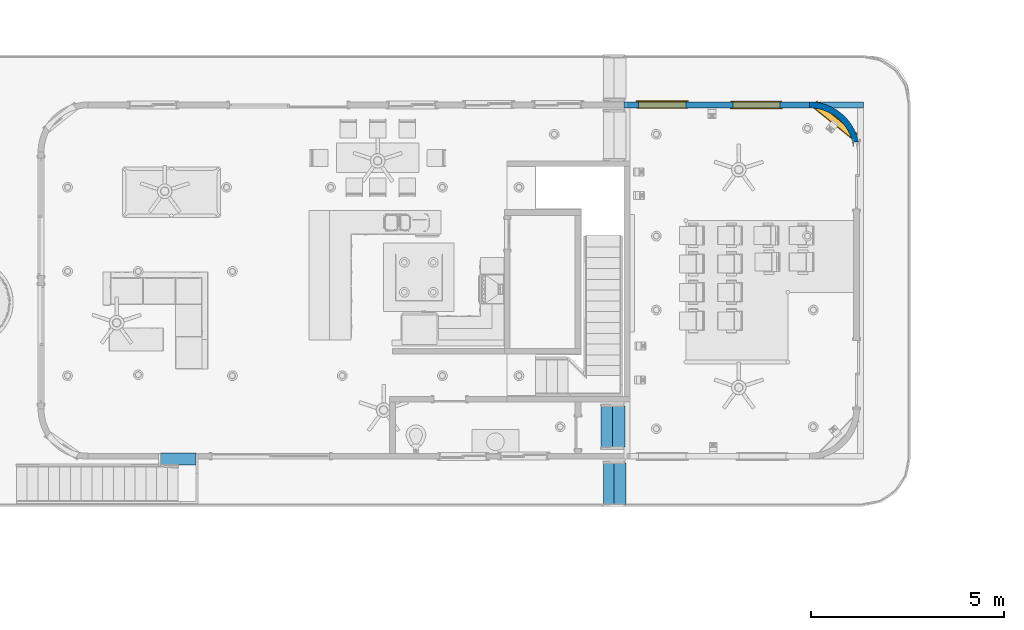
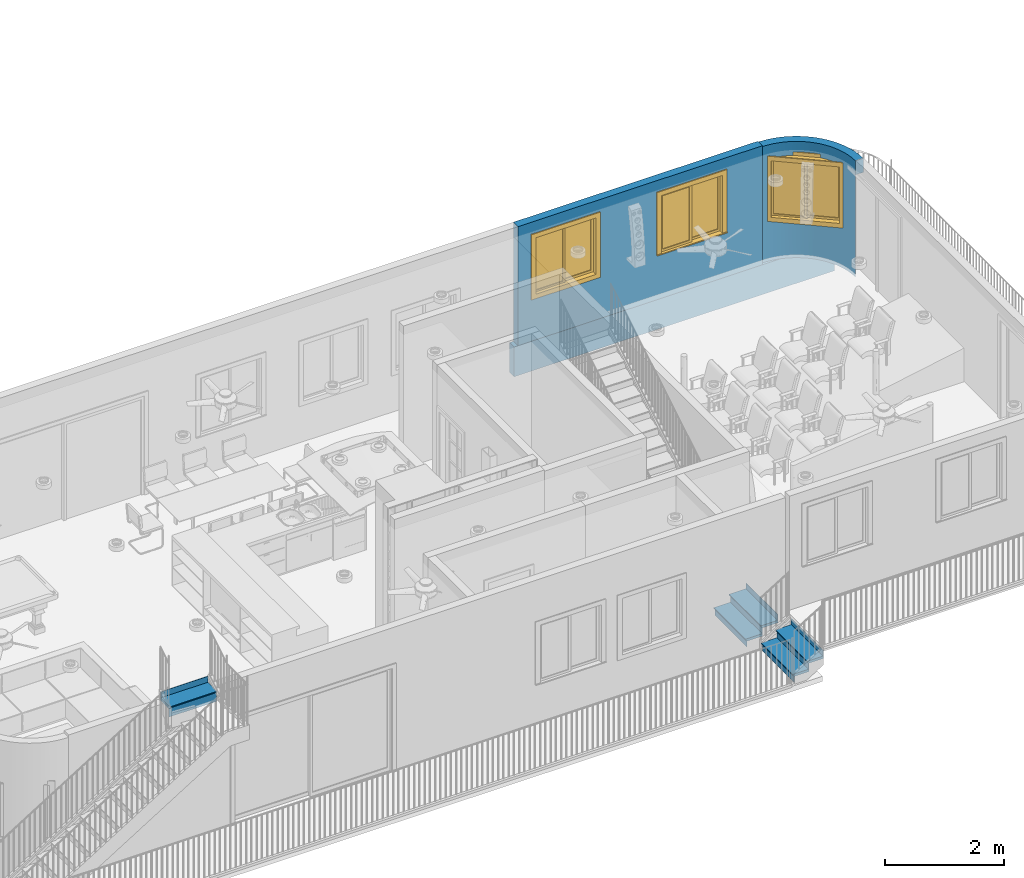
# One storey, part 5 of 21: 3 stair flights, 3 walls, 3 windows, 4 openings, 3 elements without a shape of their own.
"""IFC2X3 building model written with IfcOpenShell, lengths in feet."""

from ifc_helpers import new_model, entity, si_unit, converted_unit, derived_unit, direction, frame, frame_2d, origin, origin_2d_with_axis, place, context, subcontext, project, spatial, polyline, circle_curve, parameter, trimmed, segment, composite_curve, rectangle, outline, extrude, source, transform, mapped, material, material_list, layer, layer_set, layer_usage, type_object, type_shapes, element, fill, aggregate, save


model = new_model("IFC2X3")

# Units and contexts
model_context = context("Model", 3, precision=0.0001, world=origin(), true_north=direction((6.12303176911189e-17, 1.0)))
body_context = subcontext(model_context, "Body", "Model", "MODEL_VIEW")
ifc_project = project(units=[converted_unit("LENGTHUNIT", "FOOT", entity("IfcRatioMeasure", 0.3048), si_unit("LENGTHUNIT", "METRE"), dimensions=[1, 0, 0, 0, 0, 0, 0]), converted_unit("AREAUNIT", "SQUARE FOOT", entity("IfcRatioMeasure", 0.09290304), si_unit("AREAUNIT", "SQUARE_METRE"), dimensions=[2, 0, 0, 0, 0, 0, 0]), converted_unit("VOLUMEUNIT", "CUBIC FOOT", entity("IfcRatioMeasure", 0.028316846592), si_unit("VOLUMEUNIT", "CUBIC_METRE"), dimensions=[3, 0, 0, 0, 0, 0, 0]), converted_unit("PLANEANGLEUNIT", "DEGREE", entity("IfcRatioMeasure", 0.0174532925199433), si_unit("PLANEANGLEUNIT", "RADIAN"), dimensions=[0, 0, 0, 0, 0, 0, 0]), si_unit("MASSUNIT", "GRAM", prefix="KILO"), derived_unit("MASSDENSITYUNIT", [(si_unit("MASSUNIT", "GRAM", prefix="KILO"), 1), (si_unit("LENGTHUNIT", "METRE"), -3)]), si_unit("TIMEUNIT", "SECOND"), si_unit("FREQUENCYUNIT", "HERTZ"), si_unit("THERMODYNAMICTEMPERATUREUNIT", "DEGREE_CELSIUS"), derived_unit("THERMALTRANSMITTANCEUNIT", [(si_unit("MASSUNIT", "GRAM", prefix="KILO"), 1), (si_unit("THERMODYNAMICTEMPERATUREUNIT", "KELVIN"), -1), (si_unit("TIMEUNIT", "SECOND"), -3)]), derived_unit("VOLUMETRICFLOWRATEUNIT", [(si_unit("LENGTHUNIT", "METRE"), 3), (si_unit("TIMEUNIT", "SECOND"), -1)]), si_unit("ELECTRICCURRENTUNIT", "AMPERE"), si_unit("ELECTRICVOLTAGEUNIT", "VOLT"), si_unit("POWERUNIT", "WATT"), si_unit("FORCEUNIT", "NEWTON"), si_unit("ILLUMINANCEUNIT", "LUX"), si_unit("LUMINOUSFLUXUNIT", "LUMEN"), si_unit("LUMINOUSINTENSITYUNIT", "CANDELA"), derived_unit("USERDEFINED", [(si_unit("MASSUNIT", "GRAM", prefix="KILO"), -1), (si_unit("LENGTHUNIT", "METRE"), -2), (si_unit("TIMEUNIT", "SECOND"), 3), (si_unit("LUMINOUSFLUXUNIT", "LUMEN"), 1)]), derived_unit("LINEARVELOCITYUNIT", [(si_unit("LENGTHUNIT", "METRE"), 1), (si_unit("TIMEUNIT", "SECOND"), -1)]), si_unit("PRESSUREUNIT", "PASCAL"), derived_unit("USERDEFINED", [(si_unit("LENGTHUNIT", "METRE"), -2), (si_unit("MASSUNIT", "GRAM", prefix="KILO"), 1), (si_unit("TIMEUNIT", "SECOND"), -2)])], contexts=[model_context])

# Site, building, storey
site_placement = place(None, origin())
site = spatial("IfcSite", under=ifc_project, at=site_placement, Name="表面", CompositionType="ELEMENT")
building_placement = place(site_placement, origin())
building = spatial("IfcBuilding", under=site, at=building_placement, CompositionType="ELEMENT")
storey_placement = place(building_placement, origin())
storey = spatial("IfcBuildingStorey", under=building, at=storey_placement, Name="Level 1", CompositionType="ELEMENT", Elevation=0.0)

# Wall
ifc_material_1 = material(Name="Paint")
ifc_layer_1 = layer(ifc_material_1, 0.333333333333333)
ifc_material_2 = material(Name="Paints and Coatings")
ifc_layer_2 = layer(ifc_material_2, 0.166666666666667)
ifc_layer_set = layer_set([ifc_layer_1, ifc_layer_2], Name="基本墙:Generic - 4\" Brick")
ifc_layer_usage_1 = layer_usage(ifc_layer_set, "AXIS2", "NEGATIVE", 0.25)
wall_type = type_object("IfcWallType", Name="基本墙:Generic - 4\" Brick", PredefinedType="STANDARD", material=ifc_layer_set)
wall_1_placement = place(storey_placement, frame((36.0484202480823, 16.6823936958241, 0.0), z_axis=(0.0, 0.0, 1.0), x_axis=(-1.0, 0.0, 0.0)))
element("IfcWallStandardCase", 1, at=wall_1_placement, inside=storey, type_object=wall_type, material=ifc_layer_usage_1, Name="基本墙:Generic - 4\" Brick", ObjectType="基本墙:Generic - 4\" Brick:257", context=body_context, shape_type="SweptSolid", body=[
    extrude(rectangle(XDim=20.3333333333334, YDim=0.5, at=frame_2d((10.1666666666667, 8.04911692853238e-16), x_axis=(-1.0, 0.0))), origin(), (0.0, 0.0, 1.0), 2.0),
])

# Wall, openings, window
ifc_layer_usage_2 = layer_usage(ifc_layer_set, "AXIS2", "POSITIVE", -0.25)
wall_2_placement = place(storey_placement, frame((31.4650869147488, 16.6823936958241, 2.12897813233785)))
wall_2 = element("IfcWallStandardCase", 2, at=wall_2_placement, inside=storey, type_object=wall_type, material=ifc_layer_usage_2, Name="基本墙:Generic - 4\" Brick", ObjectType="基本墙:Generic - 4\" Brick:257", context=body_context, shape_type="SweptSolid", body=[
    extrude(outline(composite_curve([segment(trimmed(circle_curve(frame_2d((0.0, -4.0), x_axis=(1.0, 0.0)), 4.25), [parameter(359.999999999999)], [parameter(90.0000000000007)], True, "PARAMETER"), True, "CONTINUOUS"), segment(polyline([(0.0, 0.25), (0.0, -0.25)]), True, "CONTINUOUS"), segment(trimmed(circle_curve(frame_2d((0.0, -4.0), x_axis=(1.0, 0.0)), 3.75), [parameter(359.999999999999)], [parameter(90.0000000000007)], True, "PARAMETER"), False, "CONTINUOUS"), segment(polyline([(3.75000000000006, -4.0), (4.25000000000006, -4.0)]), True, "CONTINUOUS")], self_intersect=False)), origin(), (0.0, 0.0, 1.0), 7.80171528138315),
])
opening_1_placement = place(wall_2_placement, origin())
element("IfcOpeningElement", 3, at=opening_1_placement, cuts=wall_2, Name="基本墙:Generic - 4\" Brick", ObjectType="Opening", context=body_context, shape_type="SweptSolid", body=[
    extrude(rectangle(XDim=0.5, YDim=5.66666666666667, at=frame_2d((0.0, 4.44089209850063e-16), x_axis=(1.0, 0.0))), frame((4.0, -6.0, -0.128978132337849)), (0.0, 0.0, 1.0), 6.99999999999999),
])
opening_2_placement = place(wall_2_placement, frame((-2.07665666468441, -3.38939246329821, 2.87102186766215)))
opening_2 = element("IfcOpeningElement", 4, at=opening_2_placement, cuts=wall_2, Name="Slider with Trim:48\" x 48\":1", ObjectType="Opening", context=body_context, shape_type="SweptSolid", body=[
    extrude(rectangle(XDim=3.99999999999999, YDim=3.99999999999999, at=frame_2d((2.0, 2.0), x_axis=(-1.0, 0.0))), frame((0.0, 0.0, 0.0), z_axis=(0.627571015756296, 0.778559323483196, 0.0), x_axis=(0.0, 0.0, 1.0)), (0.0, 0.0, 1.0), 4.62701638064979),
])
ifc_material_3 = material(Name="Glass")
ifc_material_4 = material(Name="Sash")
ifc_material_5 = material(Name="Trim")
ifc_material_list_1 = material_list([ifc_material_3, ifc_material_4, ifc_material_5])
ifc_material_list_2 = material_list([ifc_material_3, ifc_material_4, ifc_material_5])
window_style = type_object("IfcWindowStyle", Name="48\" x 48\"", ConstructionType="NOTDEFINED", OperationType="NOTDEFINED", ParameterTakesPrecedence=False, Sizeable=False, material=ifc_material_list_2)
shared_shape = source(origin(), body_context, "Body", "SweptSolid", [
    extrude(rectangle(XDim=0.0416666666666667, YDim=1.71875000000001, at=origin_2d_with_axis()), frame((1.06770833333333, 0.21875, 0.208333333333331), z_axis=(0.0, 0.0, 1.0), x_axis=(0.0, -1.0, 0.0)), (0.0, 0.0, 1.0), 3.58333333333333),
    extrude(outline(polyline([(-1.00520833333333, -1.9375), (1.00520833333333, -1.9375), (1.00520833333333, 1.9375), (-1.00520833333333, 1.9375), (-1.00520833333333, -1.9375)]), holes=[polyline([(-0.859374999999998, -1.79166666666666), (-0.859374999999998, 1.79166666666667), (0.859374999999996, 1.79166666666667), (0.859374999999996, -1.79166666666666), (-0.859374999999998, -1.79166666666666)])]), frame((1.06770833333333, 0.145833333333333, 2.0), z_axis=(0.0, 1.0, 0.0), x_axis=(1.0, 0.0, 0.0)), (0.0, 0.0, 1.0), 0.145833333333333),
    extrude(rectangle(XDim=0.104166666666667, YDim=4.45833333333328, at=frame_2d((-2.77555756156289e-17, 0.0), x_axis=(1.0, 0.0))), frame((2.0, 0.552083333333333, 0.0), z_axis=(0.0, 0.0, 1.0), x_axis=(0.0, -1.0, 0.0)), (0.0, 0.0, 1.0), 0.0624999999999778),
    extrude(outline(polyline([(-1.86458333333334, 1.9375), (2.01041666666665, 1.9375), (2.01041666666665, 2.22916666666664), (-2.15624999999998, 2.22916666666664), (-2.15624999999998, -2.22916666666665), (2.01041666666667, -2.22916666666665), (2.01041666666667, -1.93749999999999), (-1.86458333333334, -1.93749999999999), (-1.86458333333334, 1.9375)])), frame((2.0, 0.5, 2.07291666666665), z_axis=(0.0, 1.0, 0.0), x_axis=(0.0, 0.0, -1.0)), (0.0, 0.0, 1.0), 0.0625),
    extrude(outline(polyline([(-2.18749999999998, -2.18749999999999), (2.18749999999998, -2.18749999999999), (2.18749999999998, 2.18749999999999), (-2.18749999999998, 2.18749999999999), (-2.18749999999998, -2.18749999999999)]), holes=[polyline([(-1.89583333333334, -1.89583333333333), (-1.89583333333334, 1.89583333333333), (1.89583333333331, 1.89583333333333), (1.89583333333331, -1.89583333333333), (-1.89583333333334, -1.89583333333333)])]), frame((2.0, -0.0625, 2.0), z_axis=(0.0, 1.0, 0.0), x_axis=(0.0, 0.0, -1.0)), (0.0, 0.0, 1.0), 0.0625),
    extrude(rectangle(XDim=0.0416666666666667, YDim=1.71874999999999, at=frame_2d((1.38777878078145e-17, 0.0), x_axis=(1.0, 0.0))), frame((2.93229166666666, 0.364583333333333, 0.208333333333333), z_axis=(0.0, 0.0, 1.0), x_axis=(0.0, 1.0, 0.0)), (0.0, 0.0, 1.0), 3.58333333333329),
    extrude(outline(polyline([(-1.00520833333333, -1.93749999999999), (1.00520833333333, -1.93749999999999), (1.00520833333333, 1.93749999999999), (-1.00520833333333, 1.93749999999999), (-1.00520833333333, -1.93749999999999)]), holes=[polyline([(-0.859374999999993, -1.79166666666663), (-0.859374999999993, 1.79166666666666), (0.859374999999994, 1.79166666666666), (0.859374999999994, -1.79166666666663), (-0.859374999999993, -1.79166666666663)])]), frame((2.93229166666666, 0.291666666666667, 2.0), z_axis=(0.0, 1.0, 0.0), x_axis=(1.0, 0.0, 0.0)), (0.0, 0.0, 1.0), 0.145833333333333),
    extrude(outline(polyline([(-2.0, -2.0), (2.0, -2.0), (2.0, 2.0), (-2.0, 2.0), (-2.0, -2.0)]), holes=[polyline([(-1.89583333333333, -1.89583333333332), (-1.89583333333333, 1.89583333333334), (1.89583333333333, 1.89583333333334), (1.89583333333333, -1.89583333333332), (-1.89583333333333, -1.89583333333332)])]), frame((2.0, 0.0, 2.0), z_axis=(0.0, 1.0, 0.0), x_axis=(1.0, 0.0, 0.0)), (0.0, 0.0, 1.0), 0.145833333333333),
    extrude(outline(polyline([(-2.0, -2.0), (2.0, -2.0), (2.0, 2.0), (-2.0, 2.0), (-2.0, -2.0)]), holes=[polyline([(-1.9375, -1.93749999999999), (-1.9375, 1.9375), (1.9375, 1.9375), (1.9375, -1.93749999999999), (-1.9375, -1.93749999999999)])]), frame((2.0, 0.145833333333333, 2.0), z_axis=(0.0, 1.0, 0.0), x_axis=(0.0, 0.0, -1.0)), (0.0, 0.0, 1.0), 0.354166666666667),
])
type_shapes(window_style, [shared_shape])
window_1_placement = place(opening_2_placement, frame((2.51028389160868, 3.11423708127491, 0.0), z_axis=(0.0, 0.0, 1.0), x_axis=(0.778559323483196, -0.627571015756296, 0.0)))
window_1 = element("IfcWindow", 5, at=window_1_placement, inside=storey, type_object=window_style, material=ifc_material_list_1, Name="Slider with Trim:48\" x 48\"", ObjectType="48\" x 48\"", OverallHeight=3.99999999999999, OverallWidth=3.99999999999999, context=body_context, shape_type="MappedRepresentation", body=[
    mapped(shared_shape, transform((0.0, 0.0, 0.0), scale=1.0)),
])
fill(opening_2, window_1)

# Wall, openings, windows
ifc_layer_usage_3 = layer_usage(ifc_layer_set, "AXIS2", "NEGATIVE", 0.25)
wall_3_placement = place(storey_placement, frame((15.9650869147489, 16.6823936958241, 2.0)))
wall_3 = element("IfcWallStandardCase", 6, at=wall_3_placement, inside=storey, type_object=wall_type, material=ifc_layer_usage_3, Name="基本墙:Generic - 4\" Brick", ObjectType="基本墙:Generic - 4\" Brick:257", context=body_context, shape_type="SweptSolid", body=[
    extrude(rectangle(XDim=15.5, YDim=0.5, at=frame_2d((7.75, 0.0), x_axis=(-1.0, 0.0))), origin(), (0.0, 0.0, 1.0), 7.98958333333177),
])
opening_3_placement = place(wall_3_placement, frame((1.0, -0.250000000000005, 3.0)))
opening_3 = element("IfcOpeningElement", 7, at=opening_3_placement, cuts=wall_3, Name="Slider with Trim:48\" x 48\":1", ObjectType="Opening", context=body_context, shape_type="SweptSolid", body=[
    extrude(rectangle(XDim=3.99999999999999, YDim=3.99999999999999, at=frame_2d((2.0, 2.0), x_axis=(-1.0, 0.0))), frame((0.0, 0.0, 0.0), z_axis=(0.0, 1.0, 0.0), x_axis=(0.0, 0.0, 1.0)), (0.0, 0.0, 1.0), 0.5),
])
opening_4_placement = place(wall_3_placement, frame((13.0, 0.249999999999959, 3.0)))
opening_4 = element("IfcOpeningElement", 8, at=opening_4_placement, cuts=wall_3, Name="Slider with Trim:48\" x 48\":1", ObjectType="Opening", context=body_context, shape_type="SweptSolid", body=[
    extrude(rectangle(XDim=3.99999999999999, YDim=3.99999999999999, at=frame_2d((2.0, 2.0), x_axis=(-1.0, 0.0))), frame((0.0, 0.0, 0.0), z_axis=(0.0, -1.0, 0.0), x_axis=(0.0, 0.0, 1.0)), (0.0, 0.0, 1.0), 0.5),
])
ifc_material_list_3 = material_list([ifc_material_3, ifc_material_4, ifc_material_5])
window_2_placement = place(opening_3_placement, origin())
window_2 = element("IfcWindow", 9, at=window_2_placement, inside=storey, type_object=window_style, material=ifc_material_list_3, Name="Slider with Trim:48\" x 48\"", ObjectType="48\" x 48\"", OverallHeight=3.99999999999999, OverallWidth=3.99999999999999, context=body_context, shape_type="MappedRepresentation", body=[
    mapped(shared_shape, transform((0.0, 0.0, 0.0), scale=1.0)),
])
fill(opening_3, window_2)
ifc_material_list_4 = material_list([ifc_material_3, ifc_material_4, ifc_material_5])
window_3_placement = place(opening_4_placement, frame((0.0, 0.0, 0.0), z_axis=(0.0, 0.0, 1.0), x_axis=(-1.0, 0.0, 0.0)))
window_3 = element("IfcWindow", 10, at=window_3_placement, inside=storey, type_object=window_style, material=ifc_material_list_4, Name="Slider with Trim:48\" x 48\"", ObjectType="48\" x 48\"", OverallHeight=3.99999999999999, OverallWidth=3.99999999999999, context=body_context, shape_type="MappedRepresentation", body=[
    mapped(shared_shape, transform((0.0, 0.0, 0.0), scale=1.0)),
])
fill(opening_4, window_3)

# Stair, stair flight
stair_1_placement = place(storey_placement, origin())
stair_1 = element("IfcStair", 11, at=stair_1_placement, inside=storey, Name="楼梯:7\" max riser 11\" tread", ObjectType="楼梯:7\" max riser 11\" tread", ShapeType="NOTDEFINED")
ifc_material_6 = material(Name="Metal - Aluminum")
stair_flight_1_placement = place(stair_1_placement, origin())
stair_flight_1 = element("IfcStairFlight", 12, at=stair_flight_1_placement, material=ifc_material_6, Name="楼梯:7\" max riser 11\" tread:1", ObjectType="楼梯:7\" max riser 11\" tread", NumberOfRiser=3, NumberOfTreads=2, RiserHeight=0.558823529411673, TreadLength=0.916666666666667, context=body_context, shape_type="SweptSolid", body=[
    extrude(outline(polyline([(-0.0902777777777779, -0.638888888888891), (0.0763888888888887, -0.638888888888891), (0.0763888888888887, 0.277777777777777), (0.0555555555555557, 0.277777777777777), (-0.0277777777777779, 0.361111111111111), (-0.0902777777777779, 0.361111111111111), (-0.0902777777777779, -0.638888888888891)])), frame((14.32619802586, -17.2342729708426, 0.968545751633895), z_axis=(0.0, 1.0, 0.0), x_axis=(0.0, 0.0, -1.0)), (0.0, 0.0, 1.0), 3.5),
    extrude(rectangle(XDim=3.5, YDim=0.0208333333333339, at=frame_2d((0.0, -8.88178419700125e-16), x_axis=(1.0, 0.0))), frame((14.9755035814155, -15.4842729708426, 0.892156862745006), z_axis=(0.0, 0.0, 1.0), x_axis=(0.0, 1.0, 0.0)), (0.0, 0.0, 1.0), 0.558823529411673),
    extrude(outline(polyline([(-0.0902777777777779, -0.638888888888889), (0.0763888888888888, -0.638888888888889), (0.0763888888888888, 0.277777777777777), (0.0555555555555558, 0.277777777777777), (-0.0277777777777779, 0.361111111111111), (-0.0902777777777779, 0.361111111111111), (-0.0902777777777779, -0.638888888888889)])), frame((15.2428646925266, -17.2342729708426, 1.52736928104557), z_axis=(0.0, 1.0, 0.0), x_axis=(0.0, 0.0, -1.0)), (0.0, 0.0, 1.0), 3.5),
    extrude(rectangle(XDim=3.5, YDim=0.0208333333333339, at=frame_2d((0.0, 8.88178419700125e-16), x_axis=(1.0, 0.0))), frame((14.0588369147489, -15.4842729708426, 0.5), z_axis=(0.0, 0.0, 1.0), x_axis=(0.0, 1.0, 0.0)), (0.0, 0.0, 1.0), 0.392156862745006),
    extrude(rectangle(XDim=3.5, YDim=0.0208333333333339, at=frame_2d((0.0, 8.88178419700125e-16), x_axis=(1.0, 0.0))), frame((15.8921702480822, -15.4842729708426, 1.45098039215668), z_axis=(0.0, 0.0, 1.0), x_axis=(0.0, 1.0, 0.0)), (0.0, 0.0, 1.0), 0.558823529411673),
])
aggregate(stair_1, [stair_flight_1])

stair_2_placement = place(storey_placement, origin())
stair_2 = element("IfcStair", 13, at=stair_2_placement, inside=storey, Name="楼梯:7\" max riser 11\" tread", ObjectType="楼梯:7\" max riser 11\" tread", ShapeType="NOTDEFINED")
stair_flight_2_placement = place(stair_2_placement, origin())
stair_flight_2 = element("IfcStairFlight", 14, at=stair_flight_2_placement, material=ifc_material_6, Name="楼梯:7\" max riser 11\" tread:2", ObjectType="楼梯:7\" max riser 11\" tread", NumberOfRiser=2, NumberOfTreads=1, RiserHeight=0.569444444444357, TreadLength=0.916666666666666, context=body_context, shape_type="SweptSolid", body=[
    extrude(rectangle(XDim=3.0, YDim=0.0208333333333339, at=frame_2d((0.0, 8.88178419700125e-16), x_axis=(1.0, 0.0))), frame((-22.1369576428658, -12.8696896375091, 9.84722222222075), z_axis=(0.0, 0.0, 1.0), x_axis=(-1.0, 0.0, 0.0)), (0.0, 0.0, 1.0), 0.569444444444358),
    extrude(rectangle(XDim=3.0, YDim=0.0208333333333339, at=frame_2d((0.0, 8.88178419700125e-16), x_axis=(1.0, 0.0))), frame((-22.1369576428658, -13.7863563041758, 9.27777777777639), z_axis=(0.0, 0.0, 1.0), x_axis=(-1.0, 0.0, 0.0)), (0.0, 0.0, 1.0), 0.569444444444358),
    extrude(outline(polyline([(-0.0902777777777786, -0.361111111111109), (-0.0277777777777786, -0.361111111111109), (0.0555555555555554, -0.277777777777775), (0.0763888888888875, -0.277777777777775), (0.0763888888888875, 0.638888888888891), (-0.0902777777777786, 0.638888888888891), (-0.0902777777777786, -0.361111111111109)])), frame((-23.6369576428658, -13.5189951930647, 9.92361111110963), z_axis=(1.0, 0.0, 0.0), x_axis=(0.0, 0.0, -1.0)), (0.0, 0.0, 1.0), 3.0),
])
aggregate(stair_2, [stair_flight_2])

stair_3_placement = place(storey_placement, origin())
stair_3 = element("IfcStair", 15, at=stair_3_placement, inside=storey, Name="楼梯:7\" max riser 11\" tread", ObjectType="楼梯:7\" max riser 11\" tread", ShapeType="NOTDEFINED")
stair_flight_3_placement = place(stair_3_placement, origin())
stair_flight_3 = element("IfcStairFlight", 16, at=stair_flight_3_placement, material=ifc_material_6, Name="楼梯:7\" max riser 11\" tread:1", ObjectType="楼梯:7\" max riser 11\" tread", NumberOfRiser=3, NumberOfTreads=2, RiserHeight=0.555555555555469, TreadLength=0.97786734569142, context=body_context, shape_type="SweptSolid", body=[
    extrude(outline(polyline([(-0.0902777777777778, -0.679689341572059), (0.0763888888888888, -0.679689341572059), (0.0763888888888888, 0.298178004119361), (0.0555555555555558, 0.298178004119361), (-0.0277777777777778, 0.381511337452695), (-0.0902777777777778, 0.381511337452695), (-0.0902777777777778, -0.679689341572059)])), frame((14.1408635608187, -12.3898641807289, 0.465277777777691), z_axis=(0.0, 1.0, 0.0), x_axis=(0.0, 0.0, -1.0)), (0.0, 0.0, 1.0), 3.5),
    extrude(rectangle(XDim=3.5, YDim=0.0208333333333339, at=frame_2d((0.0, -8.88178419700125e-16), x_axis=(1.0, 0.0))), frame((13.853102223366, -10.6398641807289, 0.0), z_axis=(0.0, 0.0, 1.0), x_axis=(0.0, 1.0, 0.0)), (0.0, 0.0, 1.0), 0.388888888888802),
    extrude(rectangle(XDim=3.5, YDim=0.0208333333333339, at=frame_2d((0.0, 8.88178419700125e-16), x_axis=(1.0, 0.0))), frame((15.8088369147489, -10.6398641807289, 0.944444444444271), z_axis=(0.0, 0.0, 1.0), x_axis=(0.0, 1.0, 0.0)), (0.0, 0.0, 1.0), 0.555555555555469),
    extrude(rectangle(XDim=3.5, YDim=0.0208333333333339, at=frame_2d((0.0, -8.88178419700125e-16), x_axis=(1.0, 0.0))), frame((14.8309695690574, -10.6398641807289, 0.388888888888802), z_axis=(0.0, 0.0, 1.0), x_axis=(0.0, 1.0, 0.0)), (0.0, 0.0, 1.0), 0.555555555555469),
    extrude(outline(polyline([(-0.0902777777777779, -0.679689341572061), (0.0763888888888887, -0.679689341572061), (0.0763888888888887, 0.298178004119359), (0.0555555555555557, 0.298178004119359), (-0.0277777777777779, 0.381511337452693), (-0.0902777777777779, 0.381511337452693), (-0.0902777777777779, -0.679689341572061)])), frame((15.1187309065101, -12.3898641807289, 1.02083333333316), z_axis=(0.0, 1.0, 0.0), x_axis=(0.0, 0.0, -1.0)), (0.0, 0.0, 1.0), 3.5),
])
aggregate(stair_3, [stair_flight_3])

save(model, "model.ifc")
